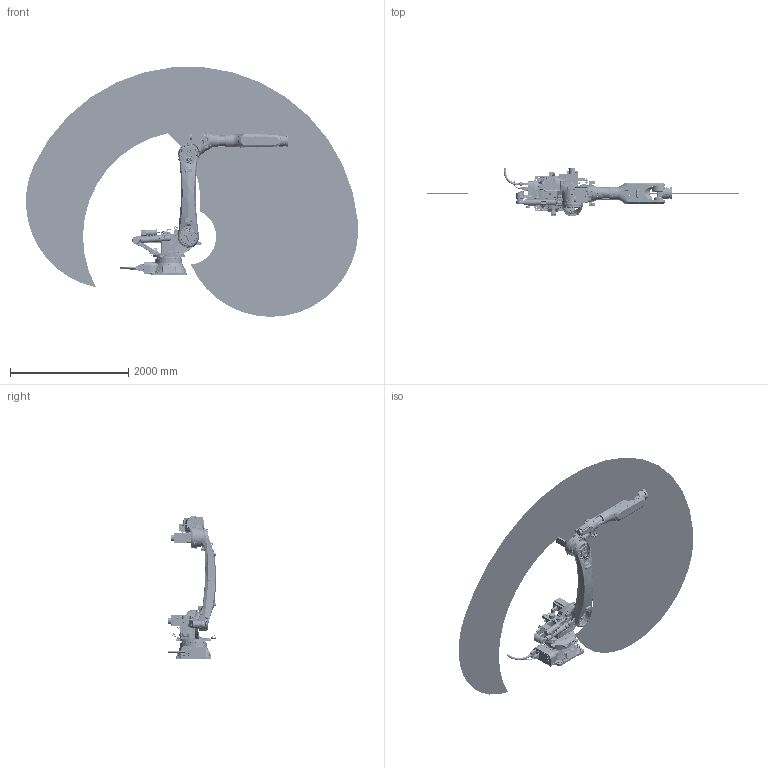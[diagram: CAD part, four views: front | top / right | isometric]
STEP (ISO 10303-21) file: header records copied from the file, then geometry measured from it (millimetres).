
FILE_DESCRIPTION(/* description */ (''),/* implementation_level */ '2;1');
FILE_NAME(/* name */ 'NB220-15032 简化模型(20231009).stp',/* time_stamp */ '2023-10-10T10:11:20+08:00',/* author */ (''),/* organization */ (''),/* preprocessor_version */ 'ST-DEVELOPER v16',/* originating_system */ 'SIEMENS PLM Software NX 10.0',/* authorisation */ '');
FILE_SCHEMA (('CONFIG_CONTROL_DESIGN'));
Products named in the file (12): NB220-Logo; NB220底座编码器线; NB220底座动力线; NB220-3Dwork-B; NB220-shuchu-A; NB220-shouwan-A; NB220-xiaobihou-A; NB220-dabi-B; NB220-yao-A; NB220-xiaobiqian-B_MODEL; NB220-base-A_MODEL; NB220-15032 简化模型(20231009)
Assembly tree (12 placements, depth 3):
  NB220-15032 简化模型(20231009)
    NB220-base-A_MODEL
      NB220底座动力线
      NB220底座编码器线
    NB220-yao-A
    NB220-dabi-B
    NB220-xiaobihou-A
    NB220-shouwan-A
    NB220-shuchu-A
    NB220-3Dwork-B
    NB220-xiaobiqian-B_MODEL
      NB220-Logo  x2
Bounding box: 5609.56 x 826 x 4220 mm (x, y, z)
Volume: 184808123.3 mm3; surface area: 25402021.9 mm2
Topology: 35 solids, 131 shells, 11365 faces, 27643 edges, 17249 vertices
Faces by surface type: plane 4053, cylinder 3202, bspline 2104, cone 793, torus 702, extrusion 367, sphere 133, revolution 11
Full cylindrical faces by diameter (mm): 0.184 x1, 2.874 x8, 3.3 x7, 3.838 x1, 4.5 x7, 5 x50, 5.5 x10, 5.795 x26, 6 x10, 6.5 x9, 6.6 x10, 6.8 x11, 7 x38, 7.76 x14, 7.782 x1, 8 x2, 8.5 x76, 8.613 x4, 9 x8, 10 x80, 10.3 x43, 10.4 x1, 11 x17, 11.05 x12, 11.1 x4, 12 x10, 12.1 x6, 12.678 x1, 13 x65, 13.5 x10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
Entity records: 466393 total; most frequent: CARTESIAN_POINT 228635, ORIENTED_EDGE 48848, DIRECTION 45421, EDGE_CURVE 24427, AXIS2_PLACEMENT_3D 18142, VERTEX_POINT 16177, EDGE_LOOP 14144, ADVANCED_FACE 11276
